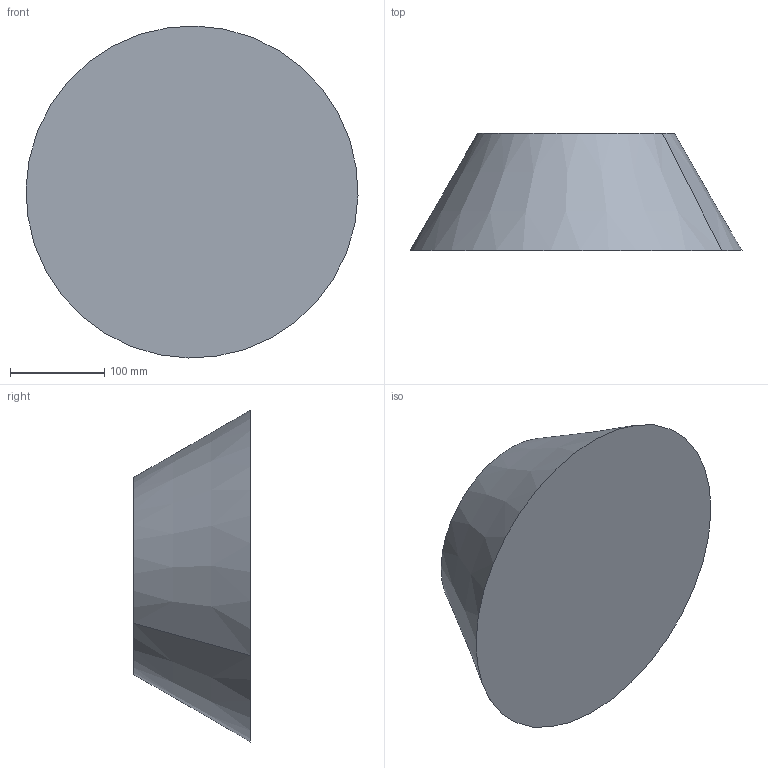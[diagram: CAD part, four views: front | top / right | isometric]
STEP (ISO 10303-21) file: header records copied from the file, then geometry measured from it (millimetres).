
FILE_DESCRIPTION(('CATIA V5 STEP Exchange'),'2;1');
FILE_NAME('C:\_Andres\UNIVERSIDAD\IQS\ASIGNATURAS\DAO\EXF\EXF-16172c\2inicio\Puig_Bataller_Ej09_v24.stp','2017-03-05T22:13:13+00:00',('none'),('none'),'CATIA Version 5-6 Release 2014 SP1 HF18','CATIA V5 STEP AP203','none');
FILE_SCHEMA(('CONFIG_CONTROL_DESIGN'));
Length unit declared in the file: millimetre
Products named in the file (1): Puig_Bataller_Ej09_v24
Bounding box: 351.9 x 124 x 351.9 mm (x, y, z)
Volume: 7816155.8 mm3; surface area: 259894.1 mm2
Topology: 1 solids, 2 shells, 8 faces, 12 edges, 8 vertices
Faces by surface type: plane 4, cone 2, cylinder 2
Entity records: 205 total; most frequent: CARTESIAN_POINT 27, DIRECTION 24, ORIENTED_EDGE 24, AXIS2_PLACEMENT_3D 15, EDGE_CURVE 12, ADVANCED_FACE 8, CIRCLE 8, EDGE_LOOP 8
